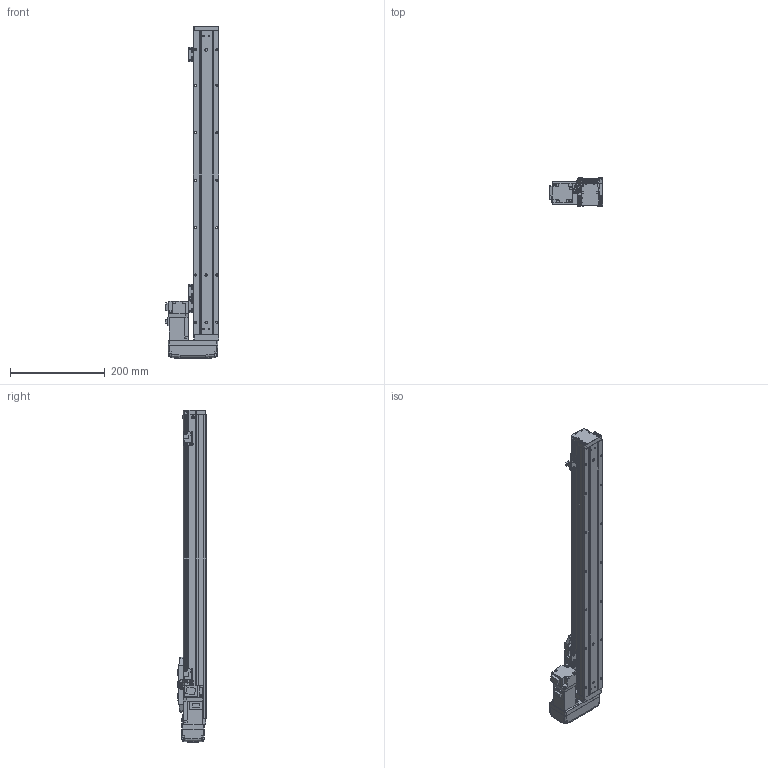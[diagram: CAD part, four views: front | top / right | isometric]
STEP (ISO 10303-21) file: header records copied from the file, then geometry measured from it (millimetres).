
FILE_DESCRIPTION (( 'STEP AP203' ), '1' );
FILE_NAME ('GTH5-500-BL-M10-C4.step', '2022-09-23T00:44:46', ( '微软用户' ), ( '微软中国' ), 'SwSTEP 2.0', 'SolidWorks 2020', '' );
FILE_SCHEMA (( 'CONFIG_CONTROL_DESIGN' ));
Length unit declared in the file: millimetre
Products named in the file (19): GTH50-003; GTH50-028; GTH5-500-BL-M10-C4; GTH50-006; GTH50-013; GTH50-022-1; GTH50-004; GTH50-023; HG-KR13; GBT 70.3-M3℅6; GBT 70.1-M3℅6; GTH50-027-1_BTHA50-027-2; BTH-M3X5X6; GBT96.1-2002 3×0.8; GTH50-026; GTH50-001_500; GTH50-024; GBT 70.1-M4×16; GBT 70.1-M2.5×6
Assembly tree (57 placements, depth 2):
  GTH5-500-BL-M10-C4
    GTH50-006
    GTH50-004
    GBT 70.3-M3℅6  x4
    BTH-M3X5X6  x8
    GTH50-001_500
    GBT 70.1-M4×16  x8
    GTH50-003
    GTH50-013
    GTH50-023  x3
    GBT 70.1-M3℅6  x12
    GBT96.1-2002 3×0.8  x6
    GTH50-024  x3
    GBT 70.1-M2.5×6  x2
    GTH50-028  x2
    GTH50-022-1
    HG-KR13
    GTH50-027-1_BTHA50-027-2
    GTH50-026
Bounding box: 113.8 x 60 x 700 mm (x, y, z)
Volume: 1612569.3 mm3; surface area: 280303.5 mm2
Topology: 59 solids, 59 shells, 2156 faces, 5004 edges, 3068 vertices
Faces by surface type: plane 1142, cylinder 585, cone 219, torus 162, bspline 40, sphere 8
Entity records: 40012 total; most frequent: CARTESIAN_POINT 7923, DIRECTION 6157, ORIENTED_EDGE 5922, EDGE_CURVE 2961, AXIS2_PLACEMENT_3D 2140, LINE 1877, VECTOR 1877, VERTEX_POINT 1870
